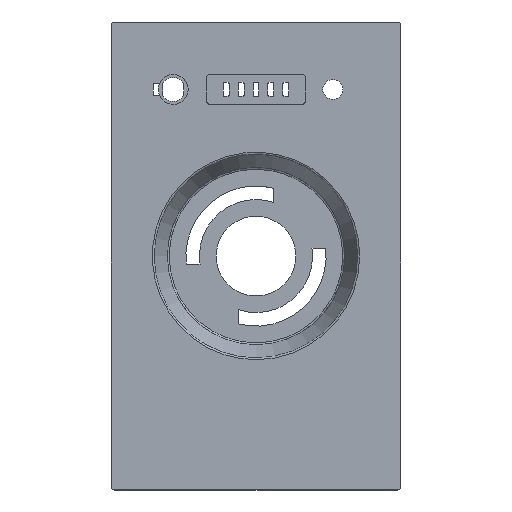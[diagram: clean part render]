
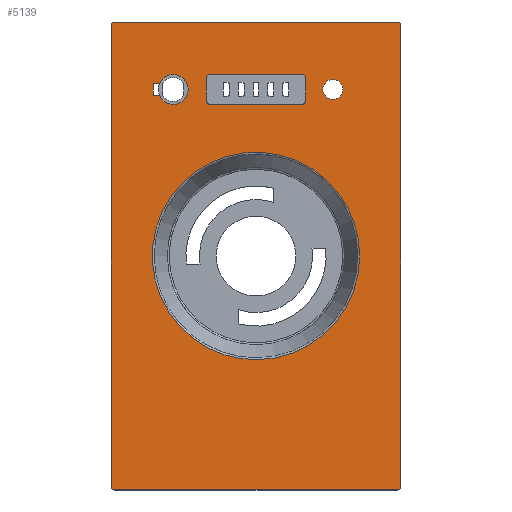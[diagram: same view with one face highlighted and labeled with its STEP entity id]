
A CAD part, top view. The second image highlights one B-rep face of the part: STEP entity #5139.
In plain terms, the highlighted planar face has unit normal (0, 0, 1).
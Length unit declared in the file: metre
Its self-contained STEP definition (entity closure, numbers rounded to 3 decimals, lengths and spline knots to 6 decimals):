
#237=LINE('',#7887,#711);
#242=LINE('',#7901,#716);
#244=LINE('',#7909,#718);
#248=LINE('',#7921,#722);
#300=LINE('',#8093,#774);
#304=LINE('',#8103,#778);
#306=LINE('',#8106,#780);
#479=LINE('',#8622,#953);
#483=LINE('',#8632,#957);
#486=LINE('',#8640,#960);
#489=LINE('',#8648,#963);
#711=VECTOR('',#6399,1.);
#716=VECTOR('',#6412,1.);
#718=VECTOR('',#6422,1.);
#722=VECTOR('',#6434,1.);
#774=VECTOR('',#6612,1.);
#778=VECTOR('',#6622,1.);
#780=VECTOR('',#6626,1.);
#953=VECTOR('',#7141,1.);
#957=VECTOR('',#7151,1.);
#960=VECTOR('',#7160,1.);
#963=VECTOR('',#7169,1.);
#1158=PLANE('',#5668);
#2533=ORIENTED_EDGE('',*,*,#2556,.F.);
#2534=ORIENTED_EDGE('',*,*,#2900,.F.);
#2535=ORIENTED_EDGE('',*,*,#2902,.F.);
#2536=ORIENTED_EDGE('',*,*,#2906,.F.);
#2537=ORIENTED_EDGE('',*,*,#2908,.F.);
#2538=ORIENTED_EDGE('',*,*,#2911,.F.);
#2539=ORIENTED_EDGE('',*,*,#2891,.F.);
#2540=ORIENTED_EDGE('',*,*,#2894,.F.);
#2541=ORIENTED_EDGE('',*,*,#2898,.F.);
#2542=ORIENTED_EDGE('',*,*,#2667,.F.);
#2543=ORIENTED_EDGE('',*,*,#2996,.F.);
#2544=ORIENTED_EDGE('',*,*,#2993,.F.);
#2545=ORIENTED_EDGE('',*,*,#2991,.F.);
#2546=ORIENTED_EDGE('',*,*,#2998,.F.);
#2547=ORIENTED_EDGE('',*,*,#3248,.F.);
#2548=ORIENTED_EDGE('',*,*,#3247,.F.);
#2549=ORIENTED_EDGE('',*,*,#3244,.F.);
#2550=ORIENTED_EDGE('',*,*,#3243,.F.);
#2551=ORIENTED_EDGE('',*,*,#3240,.F.);
#2552=ORIENTED_EDGE('',*,*,#3239,.F.);
#2553=ORIENTED_EDGE('',*,*,#3235,.T.);
#2554=ORIENTED_EDGE('',*,*,#3250,.F.);
#2556=EDGE_CURVE('',#3252,#3252,#3738,.T.);
#2667=EDGE_CURVE('',#3331,#3331,#3768,.T.);
#2891=EDGE_CURVE('',#3485,#3486,#237,.T.);
#2894=EDGE_CURVE('',#3487,#3485,#3853,.T.);
#2898=EDGE_CURVE('',#3490,#3487,#242,.T.);
#2900=EDGE_CURVE('',#3491,#3490,#3855,.T.);
#2902=EDGE_CURVE('',#3493,#3491,#244,.T.);
#2906=EDGE_CURVE('',#3495,#3493,#3857,.T.);
#2908=EDGE_CURVE('',#3497,#3495,#248,.T.);
#2911=EDGE_CURVE('',#3486,#3497,#3859,.T.);
#2991=EDGE_CURVE('',#3553,#3551,#300,.T.);
#2993=EDGE_CURVE('',#3551,#3554,#3890,.T.);
#2996=EDGE_CURVE('',#3554,#3555,#304,.T.);
#2998=EDGE_CURVE('',#3555,#3553,#306,.T.);
#3235=EDGE_CURVE('',#3729,#3730,#479,.T.);
#3239=EDGE_CURVE('',#3729,#3731,#3955,.T.);
#3240=EDGE_CURVE('',#3731,#3732,#483,.T.);
#3243=EDGE_CURVE('',#3732,#3733,#3956,.T.);
#3244=EDGE_CURVE('',#3733,#3734,#486,.T.);
#3247=EDGE_CURVE('',#3734,#3735,#3957,.T.);
#3248=EDGE_CURVE('',#3735,#3736,#489,.T.);
#3250=EDGE_CURVE('',#3736,#3730,#3958,.T.);
#3252=VERTEX_POINT('',#7182);
#3331=VERTEX_POINT('',#7419);
#3485=VERTEX_POINT('',#7886);
#3486=VERTEX_POINT('',#7888);
#3487=VERTEX_POINT('',#7892);
#3490=VERTEX_POINT('',#7900);
#3491=VERTEX_POINT('',#7904);
#3493=VERTEX_POINT('',#7910);
#3495=VERTEX_POINT('',#7916);
#3497=VERTEX_POINT('',#7922);
#3551=VERTEX_POINT('',#8088);
#3553=VERTEX_POINT('',#8092);
#3554=VERTEX_POINT('',#8096);
#3555=VERTEX_POINT('',#8100);
#3729=VERTEX_POINT('',#8623);
#3730=VERTEX_POINT('',#8624);
#3731=VERTEX_POINT('',#8629);
#3732=VERTEX_POINT('',#8633);
#3733=VERTEX_POINT('',#8637);
#3734=VERTEX_POINT('',#8641);
#3735=VERTEX_POINT('',#8645);
#3736=VERTEX_POINT('',#8649);
#3738=CIRCLE('',#5155,0.005);
#3768=CIRCLE('',#5232,0.051985);
#3853=CIRCLE('',#5408,0.002);
#3855=CIRCLE('',#5412,0.002);
#3857=CIRCLE('',#5416,0.002);
#3859=CIRCLE('',#5420,0.002);
#3890=CIRCLE('',#5483,0.0075);
#3955=CIRCLE('',#5658,0.0018);
#3956=CIRCLE('',#5661,0.0018);
#3957=CIRCLE('',#5664,0.0018);
#3958=CIRCLE('',#5667,0.0018);
#4352=EDGE_LOOP('',(#2533));
#4353=EDGE_LOOP('',(#2534,#2535,#2536,#2537,#2538,#2539,#2540,#2541));
#4354=EDGE_LOOP('',(#2542));
#4355=EDGE_LOOP('',(#2543,#2544,#2545,#2546));
#4356=EDGE_LOOP('',(#2547,#2548,#2549,#2550,#2551,#2552,#2553,#2554));
#4750=FACE_BOUND('',#4352,.T.);
#4751=FACE_BOUND('',#4353,.T.);
#4752=FACE_BOUND('',#4354,.T.);
#4753=FACE_BOUND('',#4355,.T.);
#4754=FACE_BOUND('',#4356,.T.);
#5139=ADVANCED_FACE('',(#4750,#4751,#4752,#4753,#4754),#1158,.T.);
#5155=AXIS2_PLACEMENT_3D('',#7181,#5675,#5676);
#5232=AXIS2_PLACEMENT_3D('',#7418,#5910,#5911);
#5408=AXIS2_PLACEMENT_3D('',#7894,#6404,#6405);
#5412=AXIS2_PLACEMENT_3D('',#7906,#6416,#6417);
#5416=AXIS2_PLACEMENT_3D('',#7918,#6428,#6429);
#5420=AXIS2_PLACEMENT_3D('',#7927,#6439,#6440);
#5483=AXIS2_PLACEMENT_3D('',#8097,#6616,#6617);
#5658=AXIS2_PLACEMENT_3D('',#8630,#7147,#7148);
#5661=AXIS2_PLACEMENT_3D('',#8638,#7156,#7157);
#5664=AXIS2_PLACEMENT_3D('',#8646,#7165,#7166);
#5667=AXIS2_PLACEMENT_3D('',#8652,#7173,#7174);
#5668=AXIS2_PLACEMENT_3D('',#8653,#7175,#7176);
#5675=DIRECTION('',(0.,0.,1.));
#5676=DIRECTION('',(-1.,0.,0.));
#5910=DIRECTION('',(0.,0.,1.));
#5911=DIRECTION('',(1.,0.,0.));
#6399=DIRECTION('',(0.,1.,0.));
#6404=DIRECTION('',(0.,0.,1.));
#6405=DIRECTION('',(0.,-1.,0.));
#6412=DIRECTION('',(1.,0.,0.));
#6416=DIRECTION('',(0.,0.,1.));
#6417=DIRECTION('',(-1.,0.,0.));
#6422=DIRECTION('',(0.,-1.,0.));
#6428=DIRECTION('',(0.,0.,1.));
#6429=DIRECTION('',(0.,1.,0.));
#6434=DIRECTION('',(-1.,0.,0.));
#6439=DIRECTION('',(0.,0.,1.));
#6440=DIRECTION('',(1.,0.,0.));
#6612=DIRECTION('',(1.,0.,0.));
#6616=DIRECTION('',(0.,0.,1.));
#6617=DIRECTION('',(0.917,0.4,0.));
#6622=DIRECTION('',(-1.,0.,0.));
#6626=DIRECTION('',(0.,-1.,0.));
#7141=DIRECTION('',(-1.,0.,0.));
#7147=DIRECTION('',(0.,0.,-1.));
#7148=DIRECTION('',(0.,1.,0.));
#7151=DIRECTION('',(0.,-1.,0.));
#7156=DIRECTION('',(0.,0.,-1.));
#7157=DIRECTION('',(1.,0.,0.));
#7160=DIRECTION('',(-1.,0.,0.));
#7165=DIRECTION('',(0.,0.,-1.));
#7166=DIRECTION('',(0.,-1.,0.));
#7169=DIRECTION('',(0.,1.,0.));
#7173=DIRECTION('',(0.,0.,-1.));
#7174=DIRECTION('',(-1.,0.,0.));
#7175=DIRECTION('',(0.,0.,1.));
#7176=DIRECTION('',(1.,0.,0.));
#7181=CARTESIAN_POINT('',(0.0385,0.0835,0.098));
#7182=CARTESIAN_POINT('',(0.0335,0.0835,0.098));
#7418=CARTESIAN_POINT('',(0.,0.,0.098));
#7419=CARTESIAN_POINT('',(0.051985,0.,0.098));
#7886=CARTESIAN_POINT('',(0.025,0.078,0.098));
#7887=CARTESIAN_POINT('',(0.025,0.078,0.098));
#7888=CARTESIAN_POINT('',(0.025,0.089,0.098));
#7892=CARTESIAN_POINT('',(0.023,0.076,0.098));
#7894=CARTESIAN_POINT('',(0.023,0.078,0.098));
#7900=CARTESIAN_POINT('',(-0.023,0.076,0.098));
#7901=CARTESIAN_POINT('',(-0.023,0.076,0.098));
#7904=CARTESIAN_POINT('',(-0.025,0.078,0.098));
#7906=CARTESIAN_POINT('',(-0.023,0.078,0.098));
#7909=CARTESIAN_POINT('',(-0.025,0.089,0.098));
#7910=CARTESIAN_POINT('',(-0.025,0.089,0.098));
#7916=CARTESIAN_POINT('',(-0.023,0.091,0.098));
#7918=CARTESIAN_POINT('',(-0.023,0.089,0.098));
#7921=CARTESIAN_POINT('',(0.023,0.091,0.098));
#7922=CARTESIAN_POINT('',(0.023,0.091,0.098));
#7927=CARTESIAN_POINT('',(0.023,0.089,0.098));
#8088=CARTESIAN_POINT('',(-0.048374,0.0805,0.098));
#8092=CARTESIAN_POINT('',(-0.0515,0.0805,0.098));
#8093=CARTESIAN_POINT('',(-0.0515,0.0805,0.098));
#8096=CARTESIAN_POINT('',(-0.048374,0.0865,0.098));
#8097=CARTESIAN_POINT('',(-0.0415,0.0835,0.098));
#8100=CARTESIAN_POINT('',(-0.0515,0.0865,0.098));
#8103=CARTESIAN_POINT('',(-0.048374,0.0865,0.098));
#8106=CARTESIAN_POINT('',(-0.0515,0.0865,0.098));
#8622=CARTESIAN_POINT('',(0.07085,0.1173,0.098));
#8623=CARTESIAN_POINT('',(0.07085,0.1173,0.098));
#8624=CARTESIAN_POINT('',(-0.07085,0.1173,0.098));
#8629=CARTESIAN_POINT('',(0.07265,0.1155,0.098));
#8630=CARTESIAN_POINT('',(0.07085,0.1155,0.098));
#8632=CARTESIAN_POINT('',(0.07265,0.1155,0.098));
#8633=CARTESIAN_POINT('',(0.07265,-0.1155,0.098));
#8637=CARTESIAN_POINT('',(0.07085,-0.1173,0.098));
#8638=CARTESIAN_POINT('',(0.07085,-0.1155,0.098));
#8640=CARTESIAN_POINT('',(0.07085,-0.1173,0.098));
#8641=CARTESIAN_POINT('',(-0.07085,-0.1173,0.098));
#8645=CARTESIAN_POINT('',(-0.07265,-0.1155,0.098));
#8646=CARTESIAN_POINT('',(-0.07085,-0.1155,0.098));
#8648=CARTESIAN_POINT('',(-0.07265,-0.1155,0.098));
#8649=CARTESIAN_POINT('',(-0.07265,0.1155,0.098));
#8652=CARTESIAN_POINT('',(-0.07085,0.1155,0.098));
#8653=CARTESIAN_POINT('',(0.,0.,0.098));
